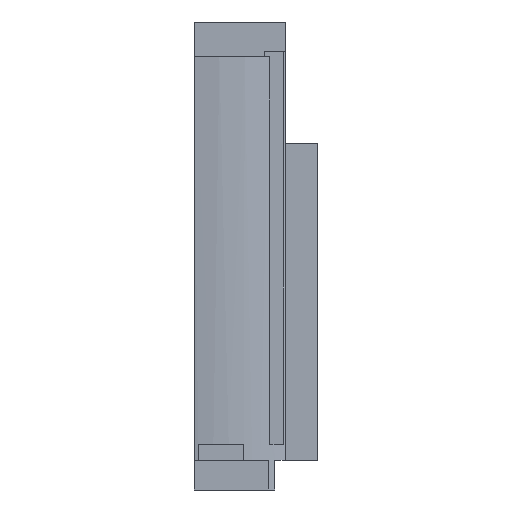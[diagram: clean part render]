
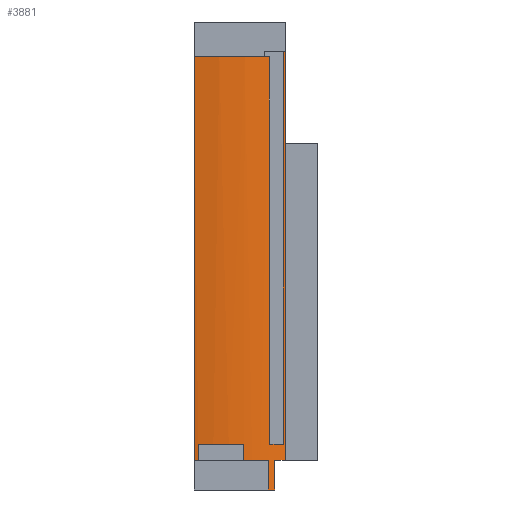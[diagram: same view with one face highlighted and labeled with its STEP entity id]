
A CAD part, left-side view. The second image highlights one B-rep face of the part: STEP entity #3881.
In plain terms, the highlighted cylindrical face has radius 30.3 mm (diameter 60.6 mm), a partial arc.
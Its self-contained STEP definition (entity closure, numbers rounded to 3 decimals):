
#24 = VERTEX_POINT('',#25);
#25 = CARTESIAN_POINT('',(-29.,-8.78,35.));
#31 = EDGE_CURVE('',#32,#24,#34,.T.);
#32 = VERTEX_POINT('',#33);
#33 = CARTESIAN_POINT('',(-30.,-4.253,35.));
#34 = CIRCLE('',#35,30.3);
#35 = AXIS2_PLACEMENT_3D('',#36,#37,#38);
#36 = CARTESIAN_POINT('',(0.,0.,35.));
#37 = DIRECTION('',(0.,0.,1.));
#38 = DIRECTION('',(1.,0.,0.));
#41 = VERTEX_POINT('',#42);
#42 = CARTESIAN_POINT('',(-30.,4.253,35.));
#48 = EDGE_CURVE('',#49,#41,#51,.T.);
#49 = VERTEX_POINT('',#50);
#50 = CARTESIAN_POINT('',(-29.885,5.,35.));
#51 = CIRCLE('',#52,30.3);
#52 = AXIS2_PLACEMENT_3D('',#53,#54,#55);
#53 = CARTESIAN_POINT('',(0.,0.,35.));
#54 = DIRECTION('',(0.,0.,1.));
#55 = DIRECTION('',(1.,0.,0.));
#71 = EDGE_CURVE('',#32,#72,#74,.T.);
#72 = VERTEX_POINT('',#73);
#73 = CARTESIAN_POINT('',(-30.,-4.253,38.));
#74 = LINE('',#75,#76);
#75 = CARTESIAN_POINT('',(-30.,-4.253,28.));
#76 = VECTOR('',#77,1.);
#77 = DIRECTION('',(0.,0.,1.));
#80 = EDGE_CURVE('',#41,#81,#83,.T.);
#81 = VERTEX_POINT('',#82);
#82 = CARTESIAN_POINT('',(-30.,4.253,38.));
#83 = LINE('',#84,#85);
#84 = CARTESIAN_POINT('',(-30.,4.253,28.));
#85 = VECTOR('',#86,1.);
#86 = DIRECTION('',(0.,0.,1.));
#103 = EDGE_CURVE('',#81,#72,#104,.T.);
#104 = CIRCLE('',#105,30.3);
#105 = AXIS2_PLACEMENT_3D('',#106,#107,#108);
#106 = CARTESIAN_POINT('',(0.,0.,38.));
#107 = DIRECTION('',(0.,0.,1.));
#108 = DIRECTION('',(1.,0.,0.));
#119 = EDGE_CURVE('',#120,#24,#122,.T.);
#120 = VERTEX_POINT('',#121);
#121 = CARTESIAN_POINT('',(-29.,-8.78,29.5));
#122 = LINE('',#123,#124);
#123 = CARTESIAN_POINT('',(-29.,-8.78,20.));
#124 = VECTOR('',#125,1.);
#125 = DIRECTION('',(0.,0.,1.));
#191 = VERTEX_POINT('',#192);
#192 = CARTESIAN_POINT('',(-28.602,-10.,29.5));
#198 = EDGE_CURVE('',#191,#199,#201,.T.);
#199 = VERTEX_POINT('',#200);
#200 = CARTESIAN_POINT('',(-28.602,-10.,35.));
#201 = LINE('',#202,#203);
#202 = CARTESIAN_POINT('',(-28.602,-10.,20.));
#203 = VECTOR('',#204,1.);
#204 = DIRECTION('',(0.,0.,1.));
#378 = EDGE_CURVE('',#120,#191,#379,.T.);
#379 = CIRCLE('',#380,30.3);
#380 = AXIS2_PLACEMENT_3D('',#381,#382,#383);
#381 = CARTESIAN_POINT('',(0.,0.,29.5));
#382 = DIRECTION('',(0.,0.,1.));
#383 = DIRECTION('',(1.,0.,0.));
#541 = VERTEX_POINT('',#542);
#542 = CARTESIAN_POINT('',(-27.822,-12.,35.));
#550 = EDGE_CURVE('',#199,#541,#551,.T.);
#551 = CIRCLE('',#552,30.3);
#552 = AXIS2_PLACEMENT_3D('',#553,#554,#555);
#553 = CARTESIAN_POINT('',(0.,0.,35.));
#554 = DIRECTION('',(0.,0.,1.));
#555 = DIRECTION('',(1.,0.,0.));
#2225 = VERTEX_POINT('',#2226);
#2226 = CARTESIAN_POINT('',(-28.,-11.58,111.));
#2232 = EDGE_CURVE('',#2225,#2233,#2235,.T.);
#2233 = VERTEX_POINT('',#2234);
#2234 = CARTESIAN_POINT('',(-27.822,-12.,111.));
#2235 = CIRCLE('',#2236,30.3);
#2236 = AXIS2_PLACEMENT_3D('',#2237,#2238,#2239);
#2237 = CARTESIAN_POINT('',(0.,0.,111.));
#2238 = DIRECTION('',(0.,0.,1.));
#2239 = DIRECTION('',(1.,0.,0.));
#2792 = VERTEX_POINT('',#2793);
#2793 = CARTESIAN_POINT('',(-29.885,5.,110.));
#2799 = EDGE_CURVE('',#2792,#2800,#2802,.T.);
#2800 = VERTEX_POINT('',#2801);
#2801 = CARTESIAN_POINT('',(-28.933,-9.,110.));
#2802 = CIRCLE('',#2803,30.3);
#2803 = AXIS2_PLACEMENT_3D('',#2804,#2805,#2806);
#2804 = CARTESIAN_POINT('',(0.,0.,110.));
#2805 = DIRECTION('',(0.,0.,1.));
#2806 = DIRECTION('',(1.,0.,0.));
#2832 = VERTEX_POINT('',#2833);
#2833 = CARTESIAN_POINT('',(-28.933,-9.,38.));
#2841 = EDGE_CURVE('',#2832,#2800,#2842,.T.);
#2842 = LINE('',#2843,#2844);
#2843 = CARTESIAN_POINT('',(-28.933,-9.,28.));
#2844 = VECTOR('',#2845,1.);
#2845 = DIRECTION('',(0.,0.,1.));
#2863 = EDGE_CURVE('',#2832,#2864,#2866,.T.);
#2864 = VERTEX_POINT('',#2865);
#2865 = CARTESIAN_POINT('',(-28.,-11.58,38.));
#2866 = CIRCLE('',#2867,30.3);
#2867 = AXIS2_PLACEMENT_3D('',#2868,#2869,#2870);
#2868 = CARTESIAN_POINT('',(0.,0.,38.));
#2869 = DIRECTION('',(0.,0.,1.));
#2870 = DIRECTION('',(1.,0.,0.));
#2886 = EDGE_CURVE('',#2864,#2225,#2887,.T.);
#2887 = LINE('',#2888,#2889);
#2888 = CARTESIAN_POINT('',(-28.,-11.58,28.));
#2889 = VECTOR('',#2890,1.);
#2890 = DIRECTION('',(0.,0.,1.));
#3741 = EDGE_CURVE('',#541,#2233,#3742,.T.);
#3742 = LINE('',#3743,#3744);
#3743 = CARTESIAN_POINT('',(-27.822,-12.,28.));
#3744 = VECTOR('',#3745,1.);
#3745 = DIRECTION('',(0.,0.,1.));
#3820 = EDGE_CURVE('',#49,#2792,#3821,.T.);
#3821 = LINE('',#3822,#3823);
#3822 = CARTESIAN_POINT('',(-29.885,5.,28.));
#3823 = VECTOR('',#3824,1.);
#3824 = DIRECTION('',(0.,0.,1.));
#3881 = ADVANCED_FACE('',(#3882),#3900,.T.);
#3882 = FACE_BOUND('',#3883,.T.);
#3883 = EDGE_LOOP('',(#3884,#3885,#3886,#3887,#3888,#3889,#3890,#3891,
    #3892,#3893,#3894,#3895,#3896,#3897,#3898,#3899));
#3884 = ORIENTED_EDGE('',*,*,#119,.F.);
#3885 = ORIENTED_EDGE('',*,*,#378,.T.);
#3886 = ORIENTED_EDGE('',*,*,#198,.T.);
#3887 = ORIENTED_EDGE('',*,*,#550,.T.);
#3888 = ORIENTED_EDGE('',*,*,#3741,.T.);
#3889 = ORIENTED_EDGE('',*,*,#2232,.F.);
#3890 = ORIENTED_EDGE('',*,*,#2886,.F.);
#3891 = ORIENTED_EDGE('',*,*,#2863,.F.);
#3892 = ORIENTED_EDGE('',*,*,#2841,.T.);
#3893 = ORIENTED_EDGE('',*,*,#2799,.F.);
#3894 = ORIENTED_EDGE('',*,*,#3820,.F.);
#3895 = ORIENTED_EDGE('',*,*,#48,.T.);
#3896 = ORIENTED_EDGE('',*,*,#80,.T.);
#3897 = ORIENTED_EDGE('',*,*,#103,.T.);
#3898 = ORIENTED_EDGE('',*,*,#71,.F.);
#3899 = ORIENTED_EDGE('',*,*,#31,.T.);
#3900 = CYLINDRICAL_SURFACE('',#3901,30.3);
#3901 = AXIS2_PLACEMENT_3D('',#3902,#3903,#3904);
#3902 = CARTESIAN_POINT('',(0.,0.,28.));
#3903 = DIRECTION('',(0.,0.,1.));
#3904 = DIRECTION('',(1.,0.,0.));
